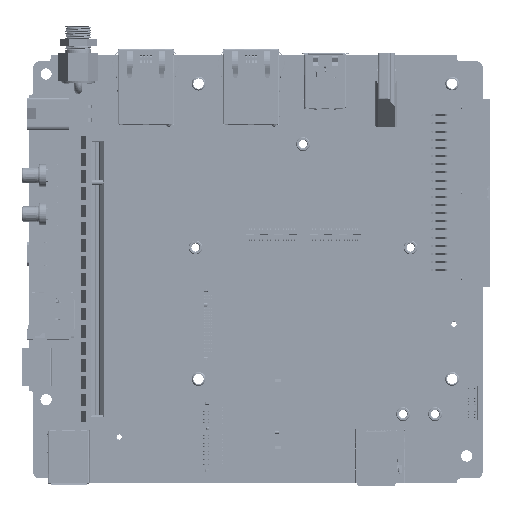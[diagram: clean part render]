
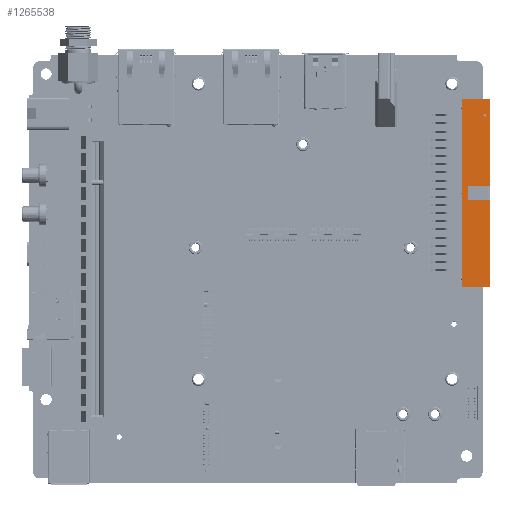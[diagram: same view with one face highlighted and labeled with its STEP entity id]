
A CAD part, front view. The second image highlights one B-rep face of the part: STEP entity #1265538.
In plain terms, the highlighted planar face has unit normal (0, -1, 0).
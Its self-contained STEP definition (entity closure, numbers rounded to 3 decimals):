
#1264167=DIRECTION('',(-1.,0.,0.));
#1264168=VECTOR('',#1264167,58.42);
#1264169=CARTESIAN_POINT('',(29.21,-4.4,0.));
#1264170=LINE('',#1264169,#1264168);
#1264325=DIRECTION('',(0.,0.,1.));
#1264326=VECTOR('',#1264325,6.8);
#1264327=CARTESIAN_POINT('',(-2.2,-4.4,2.));
#1264328=LINE('',#1264327,#1264326);
#1264329=DIRECTION('',(-1.,0.,0.));
#1264330=VECTOR('',#1264329,4.4);
#1264331=CARTESIAN_POINT('',(2.2,-4.4,2.));
#1264332=LINE('',#1264331,#1264330);
#1264333=DIRECTION('',(0.,0.,-1.));
#1264334=VECTOR('',#1264333,6.8);
#1264335=CARTESIAN_POINT('',(2.2,-4.4,8.8));
#1264336=LINE('',#1264335,#1264334);
#1264337=DIRECTION('',(-1.,0.,0.));
#1264338=VECTOR('',#1264337,27.01);
#1264339=CARTESIAN_POINT('',(29.21,-4.4,8.8));
#1264340=LINE('',#1264339,#1264338);
#1264341=DIRECTION('',(0.,0.,1.));
#1264342=VECTOR('',#1264341,8.8);
#1264343=CARTESIAN_POINT('',(29.21,-4.4,0.));
#1264344=LINE('',#1264343,#1264342);
#1264345=DIRECTION('',(-1.,0.,0.));
#1264346=VECTOR('',#1264345,27.01);
#1264347=CARTESIAN_POINT('',(-2.2,-4.4,8.8));
#1264348=LINE('',#1264347,#1264346);
#1264373=DIRECTION('',(0.,0.,1.));
#1264374=VECTOR('',#1264373,8.8);
#1264375=CARTESIAN_POINT('',(-29.21,-4.4,0.));
#1264376=LINE('',#1264375,#1264374);
#1265097=CARTESIAN_POINT('',(29.21,-4.4,0.));
#1265098=VERTEX_POINT('',#1265097);
#1265099=CARTESIAN_POINT('',(-29.21,-4.4,0.));
#1265100=VERTEX_POINT('',#1265099);
#1265159=CARTESIAN_POINT('',(-2.2,-4.4,2.));
#1265160=CARTESIAN_POINT('',(-2.2,-4.4,8.8));
#1265161=VERTEX_POINT('',#1265159);
#1265162=VERTEX_POINT('',#1265160);
#1265163=CARTESIAN_POINT('',(-29.21,-4.4,8.8));
#1265164=VERTEX_POINT('',#1265163);
#1265165=CARTESIAN_POINT('',(29.21,-4.4,8.8));
#1265166=VERTEX_POINT('',#1265165);
#1265167=CARTESIAN_POINT('',(2.2,-4.4,8.8));
#1265168=VERTEX_POINT('',#1265167);
#1265169=CARTESIAN_POINT('',(2.2,-4.4,2.));
#1265170=VERTEX_POINT('',#1265169);
#1265516=CARTESIAN_POINT('',(-29.21,-4.4,8.8));
#1265517=DIRECTION('',(0.,1.,0.));
#1265518=DIRECTION('',(0.,0.,1.));
#1265519=AXIS2_PLACEMENT_3D('',#1265516,#1265517,#1265518);
#1265520=PLANE('',#1265519);
#1265522=ORIENTED_EDGE('',*,*,#1265521,.F.);
#1265524=ORIENTED_EDGE('',*,*,#1265523,.F.);
#1265526=ORIENTED_EDGE('',*,*,#1265525,.F.);
#1265528=ORIENTED_EDGE('',*,*,#1265527,.F.);
#1265530=ORIENTED_EDGE('',*,*,#1265529,.F.);
#1265531=ORIENTED_EDGE('',*,*,#1265312,.T.);
#1265533=ORIENTED_EDGE('',*,*,#1265532,.T.);
#1265535=ORIENTED_EDGE('',*,*,#1265534,.F.);
#1265536=EDGE_LOOP('',(#1265522,#1265524,#1265526,#1265528,#1265530,#1265531,
#1265533,#1265535));
#1265537=FACE_OUTER_BOUND('',#1265536,.F.);
#1265538=ADVANCED_FACE('',(#1265537),#1265520,.F.);
#1265312=EDGE_CURVE('',#1265098,#1265100,#1264170,.T.);
#1265521=EDGE_CURVE('',#1265161,#1265162,#1264328,.T.);
#1265523=EDGE_CURVE('',#1265170,#1265161,#1264332,.T.);
#1265525=EDGE_CURVE('',#1265168,#1265170,#1264336,.T.);
#1265527=EDGE_CURVE('',#1265166,#1265168,#1264340,.T.);
#1265529=EDGE_CURVE('',#1265098,#1265166,#1264344,.T.);
#1265532=EDGE_CURVE('',#1265100,#1265164,#1264376,.T.);
#1265534=EDGE_CURVE('',#1265162,#1265164,#1264348,.T.);
